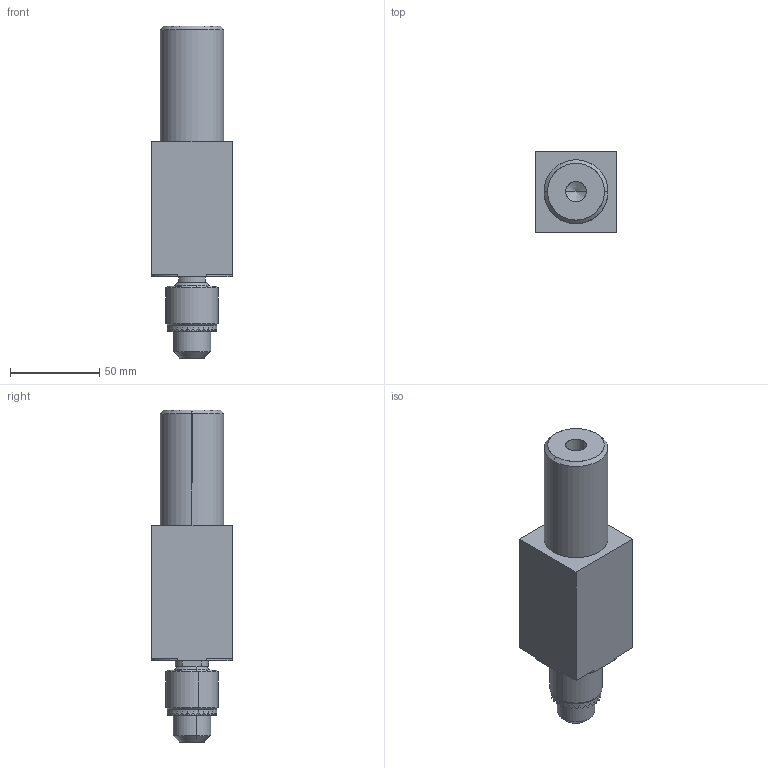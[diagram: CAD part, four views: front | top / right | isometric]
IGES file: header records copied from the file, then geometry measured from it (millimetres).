
Start section: SolidWorks IGES file using analytic representation for surfaces
Global section: file name: R:\Inventor\Kundmodeller Solidworks\BE22SK BE33SK BEP22SK\BE225-2211SK with keychuck 0,5-6,5mm.IGS; native system: SolidWorks 2008; preprocessor: SolidWorks 2008; author: Johan; date: 091015.084916; units: millimetre
Bounding box: 45 x 45 x 185.9 mm (x, y, z)
Surface area: 31298.8 mm2 (no closed solid volume)
Topology: 0 solids, 0 shells, 192 faces, 1770 edges, 1756 vertices
Faces by surface type: bspline 134, revolution 58
